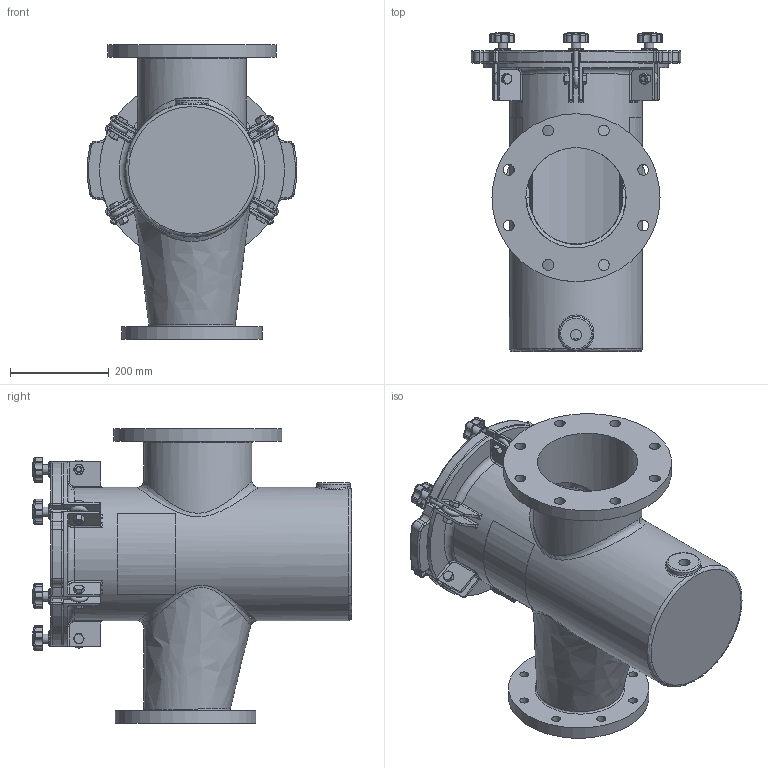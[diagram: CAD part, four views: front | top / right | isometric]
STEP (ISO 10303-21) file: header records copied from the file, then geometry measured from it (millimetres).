
FILE_DESCRIPTION(/* description */ ('200MM X 150MM FIBERGLASS STRAINER BODY'),/* implementation_level */ '2;1');
FILE_NAME(/* name */ 'E:\New folder (7)\Ready for delivery - Do not Disturb -Updated with metric Flange\Workspace\FG Reducing Strainer\Guardian FG Reducing H&L Strainer (Metric)\STRAINER H&L 200MM X 150MM.step',/* time_stamp */ '2016-10-19T04:14:47+06:00',/* author */ ('20076253'),/* organization */ (''),/* preprocessor_version */ 'ST-DEVELOPER v16.1',/* originating_system */ 'Autodesk Inventor 2016',/* authorisation */ '');
FILE_SCHEMA (('AUTOMOTIVE_DESIGN { 1 0 10303 214 3 1 1 }'));
Length unit declared in the file: inch
Products named in the file (18): NBFGBODY08X06MM; 150NBCVR48R1; 150NBGSK48R1; Perforated Basket 10in; Bride (Ring) 10in; Baffle 10in; Handle 10in; Bottom Strainer 10in; NBBSK08T316; Nut- 1_2  UNC; Bolt-1_2 x 1 1_2  UNC; EyeBolt; Washer; Knob M10; Securing Assembly For FG without Brace; Label for 10.625 inch (Right); Label for 10.625 inch (Left); STRAINER H&L 200MM X 150MM
Assembly tree (22 placements, depth 3):
  STRAINER H&L 200MM X 150MM
    NBFGBODY08X06MM
    150NBCVR48R1
    150NBGSK48R1
    NBBSK08T316
      Perforated Basket 10in
      Bride (Ring) 10in
      Baffle 10in
      Handle 10in
      Bottom Strainer 10in
    Securing Assembly For FG without Brace  x6
      Nut- 1_2  UNC
      Bolt-1_2 x 1 1_2  UNC
      EyeBolt
      Washer
      Knob M10
    Label for 10.625 inch (Right)
    Label for 10.625 inch (Left)
Bounding box: 424.18 x 646.2 x 596.9 mm (x, y, z)
Volume: 12375161.4 mm3; surface area: 2924066.3 mm2
Topology: 40 solids, 40 shells, 1269 faces, 2912 edges, 1722 vertices
Faces by surface type: cylinder 463, plane 330, cone 138, torus 124, bspline 112, sphere 102
Full cylindrical faces by diameter (mm): 3.175 x10, 6.35 x2, 8.382 x6, 9.525 x12, 10.592 x6, 12.7 x6, 15.875 x12, 17.78 x8, 19 x12, 19.05 x6, 22.098 x8, 22.809 x1, 31.75 x6, 68.263 x1, 187.325 x2, 190.5 x1, 193.04 x1, 203.2 x1, 219.075 x1, 254 x2, 266.7 x1, 269.875 x1, 276.225 x1, 284.48 x1, 311.15 x1, 317.5 x1, 340.36 x1
Entity records: 26383 total; most frequent: CARTESIAN_POINT 10441, DIRECTION 3292, ORIENTED_EDGE 2996, EDGE_CURVE 1498, AXIS2_PLACEMENT_3D 1390, VERTEX_POINT 950, EDGE_LOOP 856, CIRCLE 701
